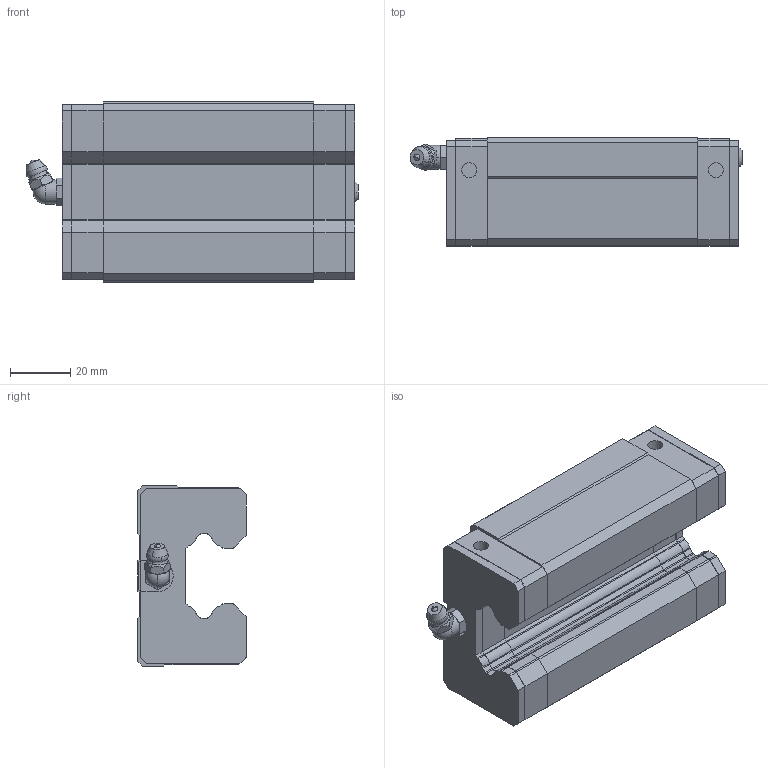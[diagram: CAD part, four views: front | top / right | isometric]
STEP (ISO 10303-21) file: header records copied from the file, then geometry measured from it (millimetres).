
FILE_DESCRIPTION (( 'STEP AP203' ), '1' );
FILE_NAME ('SGL30CA.STEP', '2025-06-27T05:23:14', ( 'Owner' ), ( 'Organization' ), 'SwSTEP 2.0', 'SolidWorks 2020', '' );
FILE_SCHEMA (( 'CONFIG_CONTROL_DESIGN' ));
Length unit declared in the file: millimetre
Products named in the file (1): SGL30CA
Bounding box: 110.4 x 36 x 60 mm (x, y, z)
Volume: 158163.6 mm3; surface area: 40881.6 mm2
Topology: 7 solids, 8 shells, 466 faces, 1241 edges, 797 vertices
Faces by surface type: plane 251, cylinder 148, cone 52, torus 7, sphere 6, bspline 2
Entity records: 14870 total; most frequent: CARTESIAN_POINT 3106, ORIENTED_EDGE 2458, DIRECTION 2458, EDGE_CURVE 1229, AXIS2_PLACEMENT_3D 832, VERTEX_POINT 795, LINE 794, VECTOR 794
